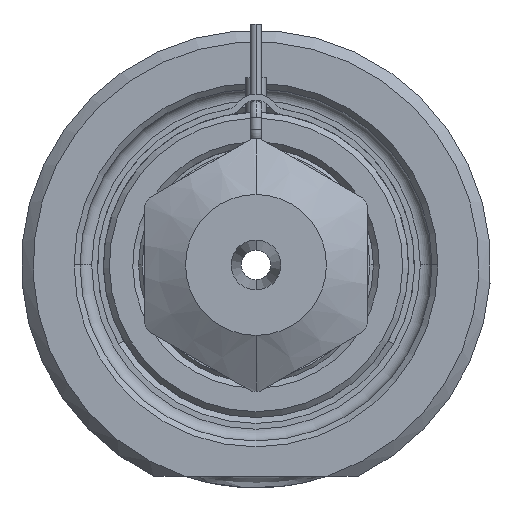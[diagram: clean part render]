
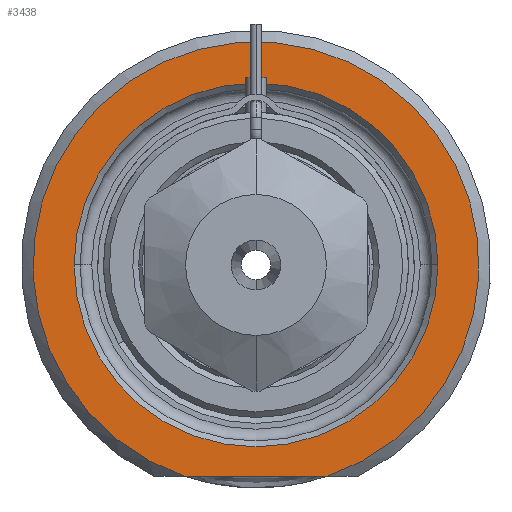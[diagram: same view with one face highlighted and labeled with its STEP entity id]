
A CAD part, front view. The second image highlights one B-rep face of the part: STEP entity #3438.
In plain terms, the highlighted planar face has unit normal (0, -1, 0).
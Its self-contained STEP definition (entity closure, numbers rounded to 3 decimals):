
#1=DIRECTION('',(1.,0.,0.));
#2=VECTOR('',#1,12.166);
#3=CARTESIAN_POINT('',(-6.083,0.,-18.));
#4=LINE('',#3,#2);
#5=CARTESIAN_POINT('',(0.,0.,0.));
#6=DIRECTION('',(0.,1.,0.));
#7=DIRECTION('',(-1.,0.,0.));
#8=AXIS2_PLACEMENT_3D('',#5,#6,#7);
#10=CARTESIAN_POINT('',(0.,0.,0.));
#11=DIRECTION('',(0.,1.,0.));
#12=DIRECTION('',(1.,0.,0.));
#13=AXIS2_PLACEMENT_3D('',#10,#11,#12);
#264=CARTESIAN_POINT('',(0.,0.,0.));
#265=DIRECTION('',(0.,-1.,0.));
#266=DIRECTION('',(0.32,0.,-0.947));
#267=AXIS2_PLACEMENT_3D('',#264,#265,#266);
#2881=CARTESIAN_POINT('',(-15.5,0.,0.));
#2882=CARTESIAN_POINT('',(15.5,0.,0.));
#2883=VERTEX_POINT('',#2881);
#2884=VERTEX_POINT('',#2882);
#2939=CARTESIAN_POINT('',(-6.083,0.,-18.));
#2940=CARTESIAN_POINT('',(6.083,0.,-18.));
#2941=VERTEX_POINT('',#2939);
#2942=VERTEX_POINT('',#2940);
#3421=CARTESIAN_POINT('',(0.,0.,0.));
#3422=DIRECTION('',(0.,-1.,0.));
#3423=DIRECTION('',(1.,0.,0.));
#3424=AXIS2_PLACEMENT_3D('',#3421,#3422,#3423);
#3425=PLANE('',#3424);
#3427=ORIENTED_EDGE('',*,*,#3426,.F.);
#3429=ORIENTED_EDGE('',*,*,#3428,.F.);
#3430=EDGE_LOOP('',(#3427,#3429));
#3431=FACE_OUTER_BOUND('',#3430,.F.);
#3433=ORIENTED_EDGE('',*,*,#3432,.F.);
#3435=ORIENTED_EDGE('',*,*,#3434,.F.);
#3436=EDGE_LOOP('',(#3433,#3435));
#3437=FACE_BOUND('',#3436,.F.);
#3438=ADVANCED_FACE('',(#3431,#3437),#3425,.T.);
#9=CIRCLE('',#8,15.5);
#14=CIRCLE('',#13,15.5);
#268=CIRCLE('',#267,19.);
#3426=EDGE_CURVE('',#2941,#2942,#4,.T.);
#3428=EDGE_CURVE('',#2942,#2941,#268,.T.);
#3432=EDGE_CURVE('',#2883,#2884,#9,.T.);
#3434=EDGE_CURVE('',#2884,#2883,#14,.T.);
